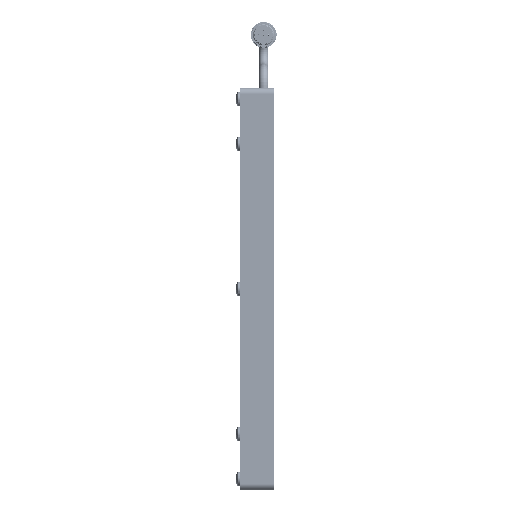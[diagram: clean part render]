
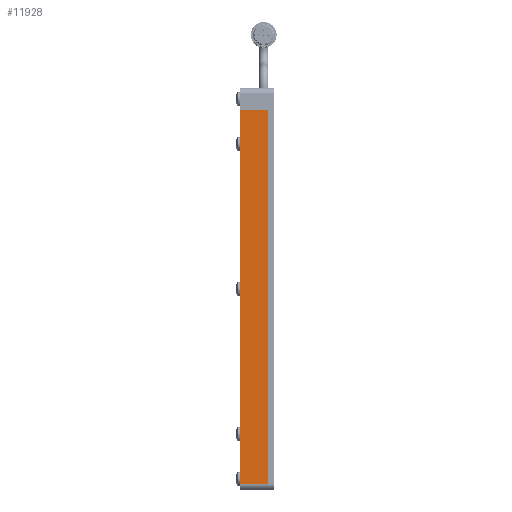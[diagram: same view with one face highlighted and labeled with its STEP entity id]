
A CAD part, left-side view. The second image highlights one B-rep face of the part: STEP entity #11928.
In plain terms, the highlighted planar face has unit normal (-1, 0, 0) as drawn and (0, 0, -1) by its records, which use the part's own axes.
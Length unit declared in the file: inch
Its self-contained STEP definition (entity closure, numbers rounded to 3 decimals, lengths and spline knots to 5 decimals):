
#237 = VECTOR ( 'NONE', #3708, 39.37008 ) ;
#864 = CARTESIAN_POINT ( 'NONE',  ( 4.375, 0.3125, -0.25 ) ) ;
#1450 = VERTEX_POINT ( 'NONE', #3684 ) ;
#1667 = CARTESIAN_POINT ( 'NONE',  ( 4.375, -0.3125, -0.25 ) ) ;
#1843 = VERTEX_POINT ( 'NONE', #14358 ) ;
#2113 = DIRECTION ( 'NONE',  ( 0., 0., 1. ) ) ;
#3622 = EDGE_CURVE ( 'NONE', #4529, #8621, #10520, .T. ) ;
#3684 = CARTESIAN_POINT ( 'NONE',  ( 4.375, 0.3125, -0.25 ) ) ;
#3708 = DIRECTION ( 'NONE',  ( 0., -1., 0. ) ) ;
#3792 = LINE ( 'NONE', #864, #237 ) ;
#4446 = DIRECTION ( 'NONE',  ( -1., 0., 0. ) ) ;
#4529 = VERTEX_POINT ( 'NONE', #1667 ) ;
#5013 = VECTOR ( 'NONE', #7706, 39.37008 ) ;
#5614 = LINE ( 'NONE', #6722, #10417 ) ;
#6001 = PLANE ( 'NONE',  #13453 ) ;
#6324 = CARTESIAN_POINT ( 'NONE',  ( -4., -0.3125, -0.25 ) ) ;
#6722 = CARTESIAN_POINT ( 'NONE',  ( -4.5, 0.3125, -0.25 ) ) ;
#7228 = DIRECTION ( 'NONE',  ( 1., 0., 0. ) ) ;
#7706 = DIRECTION ( 'NONE',  ( -1., 0., 0. ) ) ;
#8291 = ORIENTED_EDGE ( 'NONE', *, *, #10021, .T. ) ;
#8621 = VERTEX_POINT ( 'NONE', #11142 ) ;
#8870 = CARTESIAN_POINT ( 'NONE',  ( -4.5, 0.3125, -0.25 ) ) ;
#9617 = ORIENTED_EDGE ( 'NONE', *, *, #13756, .F. ) ;
#9648 = ORIENTED_EDGE ( 'NONE', *, *, #15908, .T. ) ;
#9924 = ORIENTED_EDGE ( 'NONE', *, *, #3622, .T. ) ;
#10021 = EDGE_CURVE ( 'NONE', #1450, #4529, #3792, .T. ) ;
#10064 = EDGE_LOOP ( 'NONE', ( #9617, #8291, #9924, #9648 ) ) ;
#10417 = VECTOR ( 'NONE', #4446, 39.37008 ) ;
#10520 = LINE ( 'NONE', #15731, #5013 ) ;
#11142 = CARTESIAN_POINT ( 'NONE',  ( -4., -0.3125, -0.25 ) ) ;
#11928 = ADVANCED_FACE ( 'NONE', ( #12540 ), #6001, .F. ) ;
#12540 = FACE_OUTER_BOUND ( 'NONE', #10064, .T. ) ;
#13453 = AXIS2_PLACEMENT_3D ( 'NONE', #8870, #2113, #7228 ) ;
#13756 = EDGE_CURVE ( 'NONE', #1450, #1843, #5614, .T. ) ;
#14040 = LINE ( 'NONE', #6324, #14843 ) ;
#14200 = DIRECTION ( 'NONE',  ( 0., 1., 0. ) ) ;
#14358 = CARTESIAN_POINT ( 'NONE',  ( -4., 0.3125, -0.25 ) ) ;
#14843 = VECTOR ( 'NONE', #14200, 39.37008 ) ;
#15731 = CARTESIAN_POINT ( 'NONE',  ( -4.5, -0.3125, -0.25 ) ) ;
#15908 = EDGE_CURVE ( 'NONE', #8621, #1843, #14040, .T. ) ;
